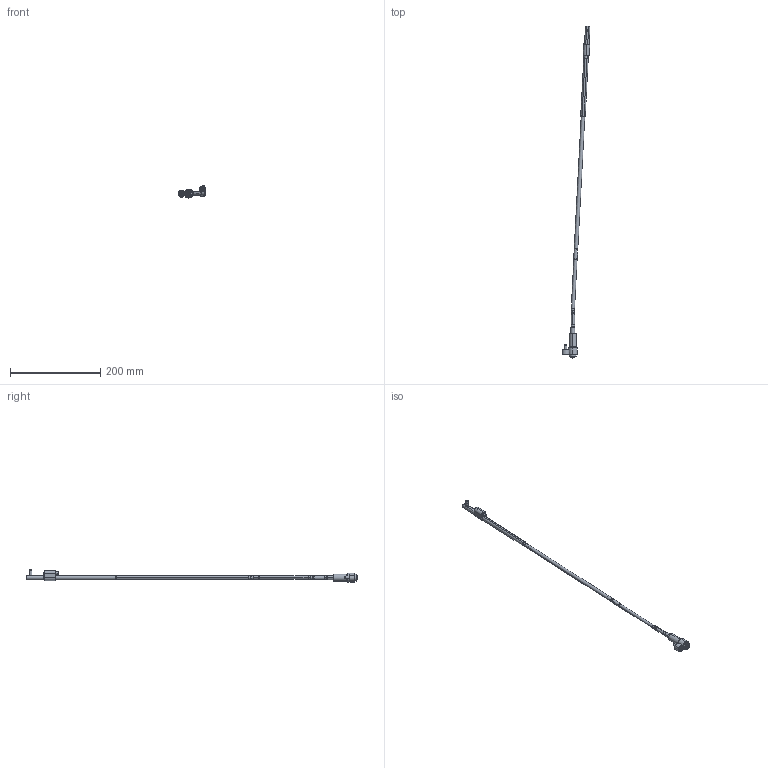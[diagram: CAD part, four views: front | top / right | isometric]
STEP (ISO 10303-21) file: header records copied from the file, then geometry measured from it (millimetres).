
FILE_DESCRIPTION (( 'STEP AP214' ), '1' );
FILE_NAME ('WL080100L-EJE 3°.STEP', '2021-03-19T15:24:47', ( '' ), ( '' ), 'SwSTEP 2.0', 'SolidWorks 2019', '' );
FILE_SCHEMA (( 'AUTOMOTIVE_DESIGN' ));
Length unit declared in the file: millimetre
Products named in the file (17): Web-WL08-A2; WL080100-E; Web-WL08-F01; 3IMAN4X2-150_con sello; WL080100-B_WL0800FF; Web-WL08-F00.SLDPRT; Web-WP08-1; Web-WL08-A1; WL080100-C; WL080100-B1_WL0800FF-1; 1DIN912545_DIN 912 M5 x 50 --- 50C; 1DIN912616_DIN 912 M6 x 16 --- 16C; WL080100L-EJE 3°; Web-WL08-A3; Web-WL08XX-A7_ON-WL080100-3; WL080100-D; 9DR2206-TOR
Assembly tree (16 placements, depth 3):
  WL080100L-EJE 3°
    Web-WP08-1
    Web-WL08XX-A7_ON-WL080100-3
    Web-WL08-A3
    Web-WL08-A2
    Web-WL08-A1
    WL080100-D
    WL080100-C
    WL080100-B_WL0800FF
      WL080100-B1_WL0800FF-1
      3IMAN4X2-150_con sello
    WL080100-E
    9DR2206-TOR
    Web-WL08-F00.SLDPRT
      Web-WL08-F01
      1DIN912545_DIN 912 M5 x 50 --- 50C
      1DIN912616_DIN 912 M6 x 16 --- 16C
Bounding box: 61.82 x 736.38 x 26.9 mm (x, y, z)
Volume: 57313.3 mm3; surface area: 33635.9 mm2
Topology: 15 solids, 15 shells, 424 faces, 888 edges, 516 vertices
Faces by surface type: plane 132, cylinder 128, cone 116, torus 48
Entity records: 13492 total; most frequent: DIRECTION 2218, CARTESIAN_POINT 2045, ORIENTED_EDGE 1756, AXIS2_PLACEMENT_3D 921, EDGE_CURVE 878, VERTEX_POINT 516, CIRCLE 476, EDGE_LOOP 468
